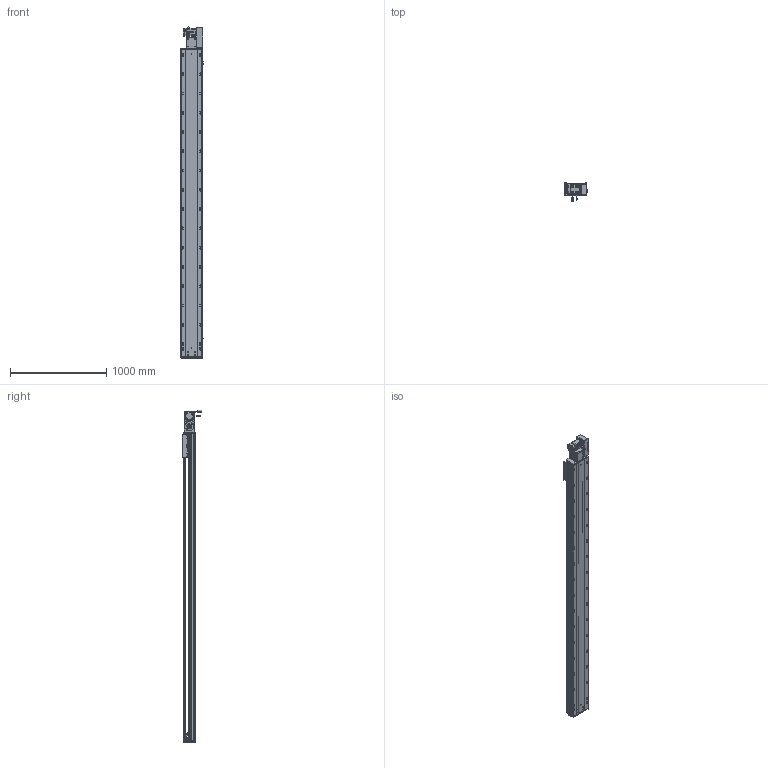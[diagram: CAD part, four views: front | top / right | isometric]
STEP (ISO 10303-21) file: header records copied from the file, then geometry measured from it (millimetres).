
FILE_DESCRIPTION (( 'STEP AP203' ), '1' );
FILE_NAME ('RY220-T-300-RK.SLDASM_2850.step', '2022-07-25T08:25:36', ( '' ), ( '' ), 'SwSTEP 2.0', 'SolidWorks 2016', '' );
FILE_SCHEMA (( 'CONFIG_CONTROL_DESIGN' ));
Length unit declared in the file: millimetre
Products named in the file (14): RY220-同步轮副支撑座6304×2; 覜茼ん672; 110A-T-肮祭謫釱傷裔; RY220-T-蛌殏萇儂假蚾啣(750W); RY220圉猾敕々湍臏賑輸; RY220翋肮祭謫裔啣; RY220-T-湍謫欶(鍼踢); RY220-T-300-RK.SLDASM_2850; RY220-T-300-奻裔啣_2850; 滅袉蝶18-15; RY220-T菁釱-300_2850; 怢湛750W_ECMA-CX0807ES; RY220-俋离672覜茼んえ; RY220翋肮祭謫釱
Assembly tree (18 placements, depth 2):
  RY220-T-300-RK.SLDASM_2850
    RY220-T菁釱-300_2850
    RY220翋肮祭謫釱
    覜茼ん672  x3
    RY220圉猾敕々湍臏賑輸
    RY220-T-300-奻裔啣_2850
    RY220-俋离672覜茼んえ
    滅袉蝶18-15  x3
    RY220翋肮祭謫裔啣  x2
    110A-T-肮祭謫釱傷裔
    怢湛750W_ECMA-CX0807ES
    RY220-T-湍謫欶(鍼踢)
    RY220-T-蛌殏萇儂假蚾啣(750W)
    RY220-同步轮副支撑座6304×2
Bounding box: 238.7 x 198.77 x 3445.24 mm (x, y, z)
Volume: 24228912.1 mm3; surface area: 7483668.2 mm2
Topology: 19 solids, 19 shells, 3012 faces, 8335 edges, 5220 vertices
Faces by surface type: cylinder 1488, plane 1069, cone 373, bspline 56, sphere 16, torus 10
Entity records: 100515 total; most frequent: CARTESIAN_POINT 28367, ORIENTED_EDGE 14906, DIRECTION 14396, EDGE_CURVE 7453, AXIS2_PLACEMENT_3D 5198, VERTEX_POINT 4844, LINE 4000, VECTOR 4000
